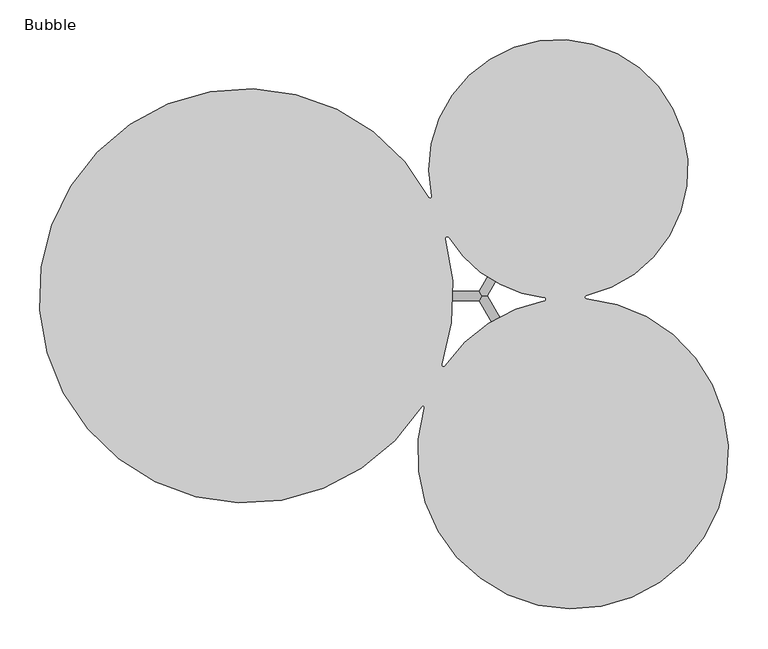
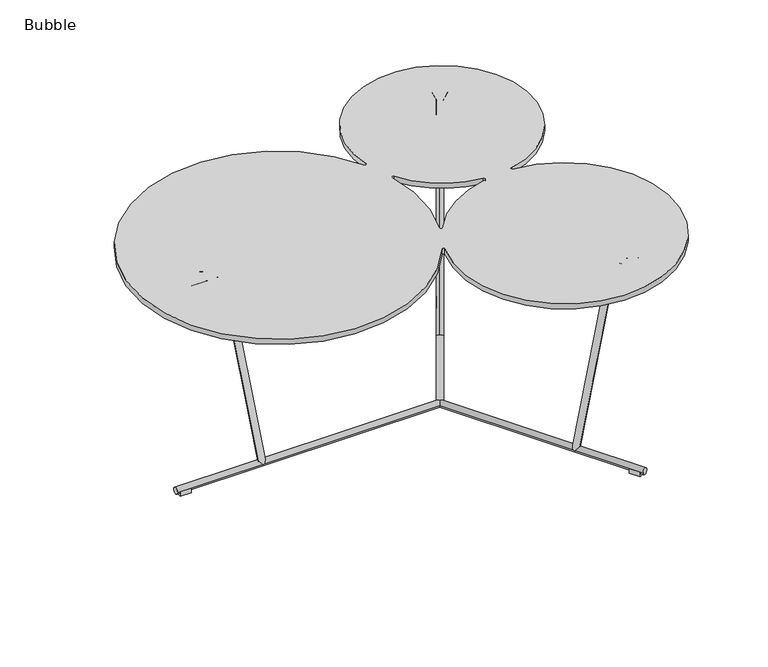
"""IFC4 building model written with IfcOpenShell, lengths in millimetres: furniture geometry, Furniture_Tables_Bla-Station_Bubble : Bubble."""

from ifc_helpers import new_model, si_unit, point, frame, frame_2d, origin, place, context, project, spatial, polyline, circle_curve, ellipse_curve, trimmed, segment, composite_curve, outline, extrude, source, transform, mapped, element, save
from ifc_brep_helpers import plane_surface, cylinder_surface, revolved_surface, spline_surface, advanced_brep


def bubble_cea61c99(model_context):
    return source(origin(), model_context, "Body", "SolidModel", [
        extrude(outline(composite_curve([segment(trimmed(circle_curve(frame_2d((58.3571971, 160.0387071)), 1.9905581), [point((56.6046667, 159.094801))], [point((60.3027176, 160.4597432))], True, "CARTESIAN"), True, "CONTINUOUS"), segment(trimmed(circle_curve(frame_2d((219.1894181, 194.8449028)), 162.5648264), [point((60.3027176, 160.4597432))], [point((253.7167021, 35.9890264))], False, "CARTESIAN"), True, "CONTINUOUS"), segment(trimmed(circle_curve(frame_2d((254.1414838, 34.0346569)), 2.0), [point((253.7167021, 35.9890264))], [point((253.9718119, 32.041867))], True, "CARTESIAN"), True, "CONTINUOUS"), segment(trimmed(circle_curve(frame_2d((237.4222067, -162.3326585)), 195.0777937), [point((253.9718119, 32.041867))], [point((50.9305666, -105.0944392))], False, "CARTESIAN"), True, "CONTINUOUS"), segment(trimmed(circle_curve(frame_2d((49.0185946, -104.5076146)), 2.0), [point((50.9305666, -105.0944392))], [point((47.3290736, -103.4373255))], True, "CARTESIAN"), True, "CONTINUOUS"), segment(trimmed(circle_curve(frame_2d((-172.3962757, 35.7557723)), 260.1037247), [point((47.3290736, -103.4373255))], [point((56.6046667, 159.094801))], False, "CARTESIAN"), True, "CONTINUOUS")], self_intersect=False), holes=[composite_curve([segment(trimmed(circle_curve(frame_2d((237.4222067, -162.3326585)), 195.0777937), [point((76.7149365, -51.7500247))], [point((201.1657888, 29.346286))], False, "CARTESIAN"), True, "CONTINUOUS"), segment(trimmed(circle_curve(frame_2d((200.7940764, 31.3114399)), 2.0), [point((201.1657888, 29.346286))], [point((201.0176398, 33.2989054))], True, "CARTESIAN"), True, "CONTINUOUS"), segment(trimmed(circle_curve(frame_2d((219.1894181, 194.8449028)), 162.5648264), [point((201.0176398, 33.2989054))], [point((81.3758829, 108.619893))], False, "CARTESIAN"), True, "CONTINUOUS"), segment(trimmed(circle_curve(frame_2d((79.6803927, 107.5590853)), 2.0), [point((81.3758829, 108.619893))], [point((77.7569048, 107.0111853))], True, "CARTESIAN"), True, "CONTINUOUS"), segment(trimmed(circle_curve(frame_2d((-172.3962757, 35.7557723)), 260.1037247), [point((77.7569048, 107.0111853))], [point((73.1790267, -49.9572283))], False, "CARTESIAN"), True, "CONTINUOUS"), segment(trimmed(circle_curve(frame_2d((75.0673141, -50.6162962)), 2.0), [point((73.1790267, -49.9572283))], [point((76.7149365, -51.7500247))], True, "CARTESIAN"), True, "CONTINUOUS")], self_intersect=False)]), frame((0.0, 0.0, 408.0), z_axis=(0.0, 0.0, 1.0), x_axis=(1.0, 0.0, 0.0)), (0.0, 0.0, 1.0), 10.0),
        extrude(outline(composite_curve([segment(trimmed(circle_curve(frame_2d((0.0, 2.0)), 2.0), [point((-2.0, 2.0))], [point((2.0, 2.0))], False, "CARTESIAN"), True, "CONTINUOUS"), segment(polyline([(2.0, 2.0), (2.0, -19.9999999)]), True, "CONTINUOUS"), segment(trimmed(circle_curve(frame_2d((0.0, -19.9999999)), 2.0), [point((2.0, -19.9999999))], [point((-2.0, -19.9999999))], False, "CARTESIAN"), True, "CONTINUOUS"), segment(polyline([(-2.0, -19.9999999), (-2.0, 2.0)]), True, "CONTINUOUS")], self_intersect=False)), frame((261.6233846, 293.7634556, 405.9997931), z_axis=(0.4999966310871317, 0.8660273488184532, 0.0), x_axis=(0.0, 0.0, -1.0)), (0.0, 0.0, 1.0), 28.0),
        advanced_brep(
        [(259.8913299, 294.7634489, 403.9997931), (259.8913299, 294.7634489, 407.9997931), (278.9439315, 283.763523, 407.9997931), (278.9439315, 283.763523, 403.9997931), (261.9158696, 276.2699378, 395.9997931), (261.9158696, 276.2699378, 407.9997931)],
        [
            (0, 1, circle_curve(frame((259.8913299, 294.7634489, 405.9997931), z_axis=(0.49999663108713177, 0.8660273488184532, 0.0), x_axis=(0.8660273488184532, -0.49999663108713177, 0.0)), 2.0)),
            (1, 2),
            (2, 3, circle_curve(frame((278.9439315, 283.763523, 405.9997931), z_axis=(0.49999663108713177, 0.8660273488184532, 0.0), x_axis=(0.8660273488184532, -0.49999663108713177, 0.0)), 2.0)),
            (3, 0),
            (4, 5, circle_curve(frame((261.9158696, 276.2699378, 401.9997931), z_axis=(-0.49999663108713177, -0.8660273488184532, 0.0), x_axis=(0.8660273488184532, -0.49999663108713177, 0.0)), 6.0)),
            (5, 4, circle_curve(frame((261.9158696, 276.2699378, 401.9997931), z_axis=(-0.49999663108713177, -0.8660273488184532, 0.0), x_axis=(0.8660273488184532, -0.49999663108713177, 0.0)), 6.0)),
            (3, 4),
            (4, 0),
            (1, 5),
            (5, 2),
        ],
        [
            plane_surface(frame((269.4176307, 289.263486, 405.9997931), z_axis=(0.49999663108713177, 0.8660273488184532, 0.0), x_axis=(0.8660273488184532, -0.49999663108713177, 0.0))),
            plane_surface(frame((261.9158696, 276.2699378, 401.9997931), z_axis=(-0.49999663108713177, -0.8660273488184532, 0.0), x_axis=(0.8660273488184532, -0.49999663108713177, 0.0))),
            plane_surface(frame((261.9158696, 276.2699378, 395.9997931), z_axis=(0.23524828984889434, 0.407465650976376, -0.8824001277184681), x_axis=(0.8660273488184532, -0.4999966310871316, 0.0))),
            plane_surface(frame((261.9158696, 276.2699378, 407.9997931), z_axis=(0.0, 0.0, 1.0), x_axis=(-0.8660273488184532, 0.4999966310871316, 0.0))),
            spline_surface(1, 2, [[(261.9158696, 276.2699378, 395.9997931), (267.1120336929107, 273.2699580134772, 395.9997931), (267.1120336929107, 273.2699580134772, 401.9997931), (267.1120336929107, 273.2699580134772, 407.9997931), (261.9158696, 276.2699378, 407.9997931)], [(278.9439315, 283.763523, 403.9997931), (280.6759861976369, 282.76352973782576, 403.9997931), (280.6759861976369, 282.76352973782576, 405.9997931), (280.6759861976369, 282.76352973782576, 407.9997931), (278.9439315, 283.763523, 407.9997931)]], [2, 2], [3, 2, 3], [0.0, 1.0], [0.0, 1.0, 2.0], weights=[[1.0, 0.7071067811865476, 1.0, 0.7071067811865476, 1.0], [1.0, 0.7071067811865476, 1.0, 0.7071067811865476, 1.0]]),
            spline_surface(1, 2, [[(261.9158696, 276.2699378, 407.9997931), (256.7197055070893, 279.26991758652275, 407.9997931), (256.7197055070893, 279.26991758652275, 401.9997931), (256.7197055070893, 279.26991758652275, 395.9997931), (261.9158696, 276.2699378, 395.9997931)], [(259.8913299, 294.7634489, 407.9997931), (258.1592752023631, 295.7634421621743, 407.9997931), (258.1592752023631, 295.7634421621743, 405.9997931), (258.1592752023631, 295.7634421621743, 403.9997931), (259.8913299, 294.7634489, 403.9997931)]], [2, 2], [3, 2, 3], [0.0, 1.0], [0.0, 1.0, 2.0], weights=[[1.0, 0.7071067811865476, 1.0, 0.7071067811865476, 1.0], [1.0, 0.7071067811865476, 1.0, 0.7071067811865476, 1.0]]),
        ],
        [
            (0, [[1, 2, 3, 4]]),
            (1, [[5, 6]]),
            (2, [[7, 8, -4]]),
            (3, [[9, 10, -2]]),
            (4, [[-7, -3, -10, -5]]),
            (5, [[-9, -1, -8, -6]]),
        ],
    ),
        advanced_brep(
        [(213.0220837, 191.5826557, 10.0418349), (218.9309, 201.8171176, 7.9581651), (252.4842859, 259.9338089, 388.5625455), (246.5754696, 249.699347, 390.6462153), (261.9158696, 276.2699378, 407.9997931), (261.9158696, 276.2699378, 395.9997931), (256.9158981, 267.6096553, 395.9997931), (256.9158981, 267.6096553, 407.9997931)],
        [
            (0, 1, circle_curve(frame((215.9764918, 196.6998867, 9.0), z_axis=(-0.08681899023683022, -0.15037625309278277, -0.9848093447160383), x_axis=(0.49240135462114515, 0.8528718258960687, -0.17363915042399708)), 6.0)),
            (1, 0, circle_curve(frame((215.9764918, 196.6998867, 9.0), z_axis=(-0.08681899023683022, -0.15037625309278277, -0.9848093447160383), x_axis=(0.49240135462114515, 0.8528718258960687, -0.17363915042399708)), 6.0)),
            (1, 2),
            (2, 3, circle_curve(frame((249.5298777, 254.8165779, 389.6043804), z_axis=(-0.08681899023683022, -0.15037625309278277, -0.9848093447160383), x_axis=(0.49240135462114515, 0.8528718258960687, -0.17363915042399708)), 6.0)),
            (3, 0),
            (3, 2, circle_curve(frame((249.5298777, 254.8165779, 389.6043804), z_axis=(-0.08681899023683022, -0.15037625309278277, -0.9848093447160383), x_axis=(0.49240135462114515, 0.8528718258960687, -0.17363915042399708)), 6.0)),
            (4, 5, circle_curve(frame((261.9158696, 276.2699378, 401.9997931), z_axis=(0.4999966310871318, 0.8660273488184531, 0.0), x_axis=(0.0, 0.0, -1.0)), 6.0)),
            (5, 4, circle_curve(frame((261.9158696, 276.2699378, 401.9997931), z_axis=(0.4999966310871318, 0.8660273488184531, 0.0), x_axis=(0.0, 0.0, -1.0)), 6.0)),
            (6, 5),
            (4, 7),
            (7, 6, circle_curve(frame((256.9158981, 267.6096553, 401.9997931), z_axis=(0.4999966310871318, 0.8660273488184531, 0.0), x_axis=(0.0, 0.0, -1.0)), 6.0)),
            (6, 7, circle_curve(frame((256.9158981, 267.6096553, 401.9997931), z_axis=(0.4999966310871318, 0.8660273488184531, 0.0), x_axis=(0.0, 0.0, -1.0)), 6.0)),
            (7, 3, circle_curve(frame((256.9158981, 267.6096553, 386.9997931), z_axis=(0.8660273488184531, -0.49999663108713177, 0.0), x_axis=(-0.49240135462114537, -0.8528718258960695, 0.17363915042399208)), 21.0)),
            (2, 6, circle_curve(frame((256.9158981, 267.6096553, 386.9997931), z_axis=(-0.8660273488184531, 0.49999663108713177, 0.0), x_axis=(-0.49240135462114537, -0.8528718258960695, 0.17363915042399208)), 9.0)),
        ],
        [
            plane_surface(frame((185.0138817, 214.5759974, 9.0), z_axis=(-0.08681899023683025, -0.15037625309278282, -0.9848093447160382), x_axis=(0.8660273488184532, -0.49999663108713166, 0.0))),
            cylinder_surface(frame((215.9764918, 196.6998867, 9.0), z_axis=(-0.08681899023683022, -0.15037625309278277, -0.9848093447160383), x_axis=(0.49240135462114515, 0.8528718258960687, -0.17363915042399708)), 6.0),
            plane_surface(frame((230.9532595, 294.1460485, 401.9997931), z_axis=(0.49999663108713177, 0.8660273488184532, 0.0), x_axis=(0.8660273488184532, -0.49999663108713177, 0.0))),
            cylinder_surface(frame((256.9158981, 267.6096553, 401.9997931), z_axis=(-0.4999966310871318, -0.8660273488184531, 0.0), x_axis=(0.0, 0.0, -1.0)), 6.0),
            revolved_surface(trimmed(ellipse_curve(frame((249.5298777, 254.8165779, 389.6043804), z_axis=(0.08681899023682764, 0.15037625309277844, 0.9848093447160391), x_axis=(0.49240135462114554, 0.8528718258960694, -0.17363915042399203)), 6.0, 6.0), [point((246.5754696, 249.699347, 390.6462153))], [point((252.4842859, 259.9338089, 388.5625455))], True, "CARTESIAN"), (225.9532879, 285.485766, 386.9997931), (0.8660273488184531, -0.49999663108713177, 0.0)),
            revolved_surface(trimmed(ellipse_curve(frame((249.5298777, 254.8165779, 389.6043804), z_axis=(0.08681899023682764, 0.15037625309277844, 0.9848093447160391), x_axis=(0.49240135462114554, 0.8528718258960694, -0.17363915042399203)), 6.0, 6.0), [point((252.4842859, 259.9338089, 388.5625455))], [point((246.5754696, 249.699347, 390.6462153))], True, "CARTESIAN"), (225.9532879, 285.485766, 386.9997931), (0.8660273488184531, -0.49999663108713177, 0.0)),
        ],
        [
            (0, [[1, 2]]),
            (1, [[3, 4, 5, -2]]),
            (1, [[-5, 6, -3, -1]]),
            (2, [[7, 8]]),
            (3, [[9, -7, 10, 11]]),
            (3, [[-10, -8, -9, 12]]),
            (4, [[-11, 13, -4, 14]]),
            (5, [[-12, -14, -6, -13]]),
        ],
    ),
        extrude(outline(composite_curve([segment(polyline([(2.0, 2.0), (2.0, -20.0)]), True, "CONTINUOUS"), segment(trimmed(circle_curve(frame_2d((0.0, -20.0)), 2.0), [point((2.0, -20.0))], [point((-2.0, -20.0))], False, "CARTESIAN"), True, "CONTINUOUS"), segment(polyline([(-2.0, -20.0), (-2.0, 2.0)]), True, "CONTINUOUS"), segment(trimmed(circle_curve(frame_2d((0.0, 2.0)), 2.0), [point((-2.0, 2.0))], [point((2.0, 2.0))], False, "CARTESIAN"), True, "CONTINUOUS")], self_intersect=False)), frame((322.656496, -291.962779, 405.9997931), z_axis=(-0.5002766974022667, 0.8658655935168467, 0.0), x_axis=(0.0, 0.0, 1.0)), (0.0, 0.0, 1.0), 28.0),
        advanced_brep(
        [(310.3804797, -266.717989, 403.9997931), (310.3804797, -266.717989, 407.9997931), (291.3314366, -277.7240763, 407.9997931), (291.3314366, -277.7240763, 403.9997931), (293.349995, -259.2299114, 395.9997931), (293.349995, -259.2299114, 407.9997931)],
        [
            (0, 1, circle_curve(frame((310.3804797, -266.717989, 405.9997931), z_axis=(0.5002766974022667, -0.8658655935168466, 0.0), x_axis=(-0.8658655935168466, -0.5002766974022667, 0.0)), 2.0)),
            (1, 2),
            (2, 3, circle_curve(frame((291.3314366, -277.7240763, 405.9997931), z_axis=(0.5002766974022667, -0.8658655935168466, 0.0), x_axis=(-0.8658655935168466, -0.5002766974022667, 0.0)), 2.0)),
            (3, 0),
            (4, 5, circle_curve(frame((293.349995, -259.2299114, 401.9997931), z_axis=(-0.5002766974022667, 0.8658655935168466, 0.0), x_axis=(-0.8658655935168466, -0.5002766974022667, 0.0)), 6.0)),
            (5, 4, circle_curve(frame((293.349995, -259.2299114, 401.9997931), z_axis=(-0.5002766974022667, 0.8658655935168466, 0.0), x_axis=(-0.8658655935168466, -0.5002766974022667, 0.0)), 6.0)),
            (3, 4),
            (4, 0),
            (1, 5),
            (5, 2),
        ],
        [
            plane_surface(frame((300.8559582, -272.2210327, 405.9997931), z_axis=(0.5002766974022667, -0.8658655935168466, 0.0), x_axis=(-0.8658655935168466, -0.5002766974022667, 0.0))),
            plane_surface(frame((293.349995, -259.2299114, 401.9997931), z_axis=(-0.5002766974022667, 0.8658655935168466, 0.0), x_axis=(-0.8658655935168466, -0.5002766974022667, 0.0))),
            plane_surface(frame((293.349995, -259.2299114, 395.9997931), z_axis=(0.23538006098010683, -0.40738954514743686, -0.8824001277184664), x_axis=(-0.8658655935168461, -0.5002766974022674, 0.0))),
            plane_surface(frame((293.349995, -259.2299114, 407.9997931), z_axis=(0.0, 0.0, 1.0000000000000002), x_axis=(0.8658655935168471, 0.5002766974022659, 0.0))),
            spline_surface(1, 2, [[(293.349995, -259.2299114, 395.9997931), (288.1548014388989, -262.2315715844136, 395.9997931), (288.1548014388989, -262.2315715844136, 401.9997931), (288.1548014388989, -262.2315715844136, 407.9997931), (293.349995, -259.2299114, 407.9997931)], [(291.3314366, -277.7240763, 403.9997931), (289.59970541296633, -278.7246296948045, 403.9997931), (289.59970541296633, -278.7246296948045, 405.9997931), (289.59970541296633, -278.7246296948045, 407.9997931), (291.3314366, -277.7240763, 407.9997931)]], [2, 2], [3, 2, 3], [0.0, 1.0], [0.0, 1.0, 2.0], weights=[[1.0, 0.7071067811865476, 1.0, 0.7071067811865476, 1.0], [1.0, 0.7071067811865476, 1.0, 0.7071067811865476, 1.0]]),
            spline_surface(1, 2, [[(293.349995, -259.2299114, 407.9997931), (298.54518856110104, -256.2282512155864, 407.9997931), (298.54518856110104, -256.2282512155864, 401.9997931), (298.54518856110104, -256.2282512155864, 395.9997931), (293.349995, -259.2299114, 395.9997931)], [(310.3804797, -266.717989, 407.9997931), (312.1122108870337, -265.7174356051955, 407.9997931), (312.1122108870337, -265.7174356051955, 405.9997931), (312.1122108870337, -265.7174356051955, 403.9997931), (310.3804797, -266.717989, 403.9997931)]], [2, 2], [3, 2, 3], [0.0, 1.0], [0.0, 1.0, 2.0], weights=[[1.0, 0.7071067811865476, 1.0, 0.7071067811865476, 1.0], [1.0, 0.7071067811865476, 1.0, 0.7071067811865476, 1.0]]),
        ],
        [
            (0, [[1, 2, 3, 4]]),
            (1, [[5, 6]]),
            (2, [[7, 8, -4]]),
            (3, [[9, 10, -2]]),
            (4, [[-7, -3, -10, -5]]),
            (5, [[-9, -1, -8, -6]]),
        ],
    ),
        advanced_brep(
        [(244.428822, -174.5584471, 10.0418349), (250.340948, -184.7909974, 7.9581651), (283.9131283, -242.8968337, 388.5625455), (278.0010023, -232.6642834, 390.6462153), (293.349995, -259.2299114, 407.9997931), (293.349995, -259.2299114, 395.9997931), (288.3472228, -250.5712465, 395.9997931), (288.3472228, -250.5712465, 407.9997931)],
        [
            (0, 1, circle_curve(frame((247.384885, -179.6747223, 9.0), z_axis=(-0.08686762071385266, 0.15034816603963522, -0.9848093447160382), x_axis=(0.4926771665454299, -0.8527125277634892, -0.17363915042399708)), 6.0)),
            (1, 0, circle_curve(frame((247.384885, -179.6747223, 9.0), z_axis=(-0.08686762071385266, 0.15034816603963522, -0.9848093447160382), x_axis=(0.4926771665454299, -0.8527125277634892, -0.17363915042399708)), 6.0)),
            (1, 2),
            (2, 3, circle_curve(frame((280.9570653, -237.7805586, 389.6043804), z_axis=(-0.08686762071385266, 0.15034816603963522, -0.9848093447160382), x_axis=(0.4926771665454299, -0.8527125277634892, -0.17363915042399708)), 6.0)),
            (3, 0),
            (3, 2, circle_curve(frame((280.9570653, -237.7805586, 389.6043804), z_axis=(-0.08686762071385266, 0.15034816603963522, -0.9848093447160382), x_axis=(0.4926771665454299, -0.8527125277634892, -0.17363915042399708)), 6.0)),
            (4, 5, circle_curve(frame((293.349995, -259.2299114, 401.9997931), z_axis=(0.5002766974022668, -0.8658655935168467, 0.0), x_axis=(0.0, 0.0, -1.0)), 6.0)),
            (5, 4, circle_curve(frame((293.349995, -259.2299114, 401.9997931), z_axis=(0.5002766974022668, -0.8658655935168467, 0.0), x_axis=(0.0, 0.0, -1.0)), 6.0)),
            (6, 5),
            (4, 7),
            (7, 6, circle_curve(frame((288.3472228, -250.5712465, 401.9997931), z_axis=(0.5002766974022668, -0.8658655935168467, 0.0), x_axis=(0.0, 0.0, -1.0)), 6.0)),
            (6, 7, circle_curve(frame((288.3472228, -250.5712465, 401.9997931), z_axis=(0.5002766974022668, -0.8658655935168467, 0.0), x_axis=(0.0, 0.0, -1.0)), 6.0)),
            (7, 3, circle_curve(frame((288.3472228, -250.5712465, 386.9997931), z_axis=(-0.8658655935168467, -0.5002766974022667, 0.0), x_axis=(-0.4926771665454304, 0.85271252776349, 0.17363915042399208)), 21.0)),
            (2, 6, circle_curve(frame((288.3472228, -250.5712465, 386.9997931), z_axis=(0.8658655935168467, 0.5002766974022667, 0.0), x_axis=(-0.4926771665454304, 0.85271252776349, 0.17363915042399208)), 9.0)),
        ],
        [
            plane_surface(frame((278.3417119, -161.7885985, 9.0), z_axis=(-0.08686762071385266, 0.15034816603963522, -0.9848093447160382), x_axis=(-0.8658655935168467, -0.5002766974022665, 0.0))),
            cylinder_surface(frame((247.384885, -179.6747223, 9.0), z_axis=(-0.08686762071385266, 0.15034816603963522, -0.9848093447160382), x_axis=(0.4926771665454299, -0.8527125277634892, -0.17363915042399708)), 6.0),
            plane_surface(frame((324.306822, -241.3437877, 401.9997931), z_axis=(0.5002766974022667, -0.8658655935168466, 0.0), x_axis=(-0.8658655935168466, -0.5002766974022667, 0.0))),
            cylinder_surface(frame((288.3472228, -250.5712465, 401.9997931), z_axis=(-0.5002766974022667, 0.8658655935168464, 0.0), x_axis=(0.0, 0.0, -1.0)), 6.0),
            revolved_surface(trimmed(ellipse_curve(frame((280.9570653, -237.7805586, 389.6043804), z_axis=(0.08686762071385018, -0.15034816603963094, 0.9848093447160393), x_axis=(0.4926771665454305, -0.85271252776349, -0.1736391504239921)), 6.0, 6.0), [point((278.0010023, -232.6642834, 390.6462153))], [point((283.9131283, -242.8968337, 388.5625455))], True, "CARTESIAN"), (319.3040498, -232.6851227, 386.9997931), (-0.8658655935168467, -0.5002766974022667, 0.0)),
            revolved_surface(trimmed(ellipse_curve(frame((280.9570653, -237.7805586, 389.6043804), z_axis=(0.08686762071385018, -0.15034816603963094, 0.9848093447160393), x_axis=(0.4926771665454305, -0.85271252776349, -0.1736391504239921)), 6.0, 6.0), [point((283.9131283, -242.8968337, 388.5625455))], [point((278.0010023, -232.6642834, 390.6462153))], True, "CARTESIAN"), (319.3040498, -232.6851227, 386.9997931), (-0.8658655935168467, -0.5002766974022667, 0.0)),
        ],
        [
            (0, [[1, 2]]),
            (1, [[3, 4, 5, -2]]),
            (1, [[-5, 6, -3, -1]]),
            (2, [[7, 8]]),
            (3, [[9, -7, 10, 11]]),
            (3, [[-10, -8, -9, 12]]),
            (4, [[-11, 13, -4, 14]]),
            (5, [[-12, -14, -6, -13]]),
        ],
    ),
        extrude(outline(composite_curve([segment(polyline([(24.7524623, 407.9997931), (46.7524623, 407.9997931)]), True, "CONTINUOUS"), segment(trimmed(circle_curve(frame_2d((46.7524623, 405.9997931)), 2.0), [point((46.7524623, 407.9997931))], [point((46.7524623, 403.9997931))], False, "CARTESIAN"), True, "CONTINUOUS"), segment(polyline([(46.7524623, 403.9997931), (24.7524623, 403.9997931)]), True, "CONTINUOUS"), segment(trimmed(circle_curve(frame_2d((24.7524623, 405.9997931)), 2.0), [point((24.7524623, 403.9997931))], [point((24.7524623, 407.9997931))], False, "CARTESIAN"), True, "CONTINUOUS")], self_intersect=False)), frame((-337.2792726, 0.0, 0.0), z_axis=(1.0, 0.0, 0.0), x_axis=(0.0, 1.0, 0.0)), (0.0, 0.0, 1.0), 28.0),
        advanced_brep(
        [(-309.2792726, 24.7524623, 403.9997931), (-309.2792726, 24.7524623, 407.9997931), (-309.2792726, 46.7524623, 407.9997931), (-309.2792726, 46.7524623, 403.9997931), (-294.2756492, 35.7524623, 395.9997931), (-294.2756492, 35.7524623, 407.9997931)],
        [
            (0, 1, circle_curve(frame((-309.2792726, 24.7524623, 405.9997931), z_axis=(-1.0, 0.0, 0.0), x_axis=(0.0, 1.0, 0.0)), 2.0)),
            (1, 2),
            (2, 3, circle_curve(frame((-309.2792726, 46.7524623, 405.9997931), z_axis=(-1.0, 0.0, 0.0), x_axis=(0.0, 1.0, 0.0)), 2.0)),
            (3, 0),
            (4, 5, circle_curve(frame((-294.2756492, 35.7524623, 401.9997931), z_axis=(1.0, 0.0, 0.0), x_axis=(0.0, 1.0, 0.0)), 6.0)),
            (5, 4, circle_curve(frame((-294.2756492, 35.7524623, 401.9997931), z_axis=(1.0, 0.0, 0.0), x_axis=(0.0, 1.0, 0.0)), 6.0)),
            (3, 4),
            (4, 0),
            (1, 5),
            (5, 2),
        ],
        [
            plane_surface(frame((-309.2792726, 35.7524623, 405.9997931), z_axis=(-1.0, 0.0, 0.0), x_axis=(0.0, 1.0, 0.0))),
            plane_surface(frame((-294.2756492, 35.7524623, 401.9997931), z_axis=(1.0, 0.0, 0.0), x_axis=(0.0, 1.0, 0.0))),
            plane_surface(frame((-294.2756492, 35.7524623, 395.9997931), z_axis=(-0.47049974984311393, 0.0, -0.8824001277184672), x_axis=(0.0, 1.0, 0.0))),
            plane_surface(frame((-294.2756492, 35.7524623, 407.9997931), z_axis=(0.0, 0.0, 1.0), x_axis=(0.0, -1.0, 0.0))),
            spline_surface(1, 2, [[(-294.2756492, 35.7524623, 395.9997931), (-294.2756492, 41.7524623, 395.9997931), (-294.2756492, 41.7524623, 401.9997931), (-294.2756492, 41.7524623, 407.9997931), (-294.2756492, 35.7524623, 407.9997931)], [(-309.2792726, 46.7524623, 403.9997931), (-309.2792726, 48.7524623, 403.9997931), (-309.2792726, 48.7524623, 405.9997931), (-309.2792726, 48.7524623, 407.9997931), (-309.2792726, 46.7524623, 407.9997931)]], [2, 2], [3, 2, 3], [0.0, 1.0], [0.0, 1.0, 2.0], weights=[[1.0, 0.7071067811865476, 1.0, 0.7071067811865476, 1.0], [1.0, 0.7071067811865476, 1.0, 0.7071067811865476, 1.0]]),
            spline_surface(1, 2, [[(-294.2756492, 35.7524623, 407.9997931), (-294.2756492, 29.752462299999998, 407.9997931), (-294.2756492, 29.752462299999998, 401.9997931), (-294.2756492, 29.752462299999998, 395.9997931), (-294.2756492, 35.7524623, 395.9997931)], [(-309.2792726, 24.7524623, 407.9997931), (-309.2792726, 22.7524623, 407.9997931), (-309.2792726, 22.7524623, 405.9997931), (-309.2792726, 22.7524623, 403.9997931), (-309.2792726, 24.7524623, 403.9997931)]], [2, 2], [3, 2, 3], [0.0, 1.0], [0.0, 1.0, 2.0], weights=[[1.0, 0.7071067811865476, 1.0, 0.7071067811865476, 1.0], [1.0, 0.7071067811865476, 1.0, 0.7071067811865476, 1.0]]),
        ],
        [
            (0, [[1, 2, 3, 4]]),
            (1, [[5, 6]]),
            (2, [[7, 8, -4]]),
            (3, [[9, 10, -2]]),
            (4, [[-7, -3, -10, -5]]),
            (5, [[-9, -1, -8, -6]]),
        ],
    ),
        advanced_brep(
        [(-196.4874186, 35.7524623, 10.0418349), (-208.3051308, 35.7524623, 7.9581651), (-275.4123547, 35.7524623, 388.5625455), (-263.5946426, 35.7524623, 390.6462153), (-294.2756492, 35.7524623, 407.9997931), (-294.2756492, 35.7524623, 395.9997931), (-284.2756388, 35.7524623, 395.9997931), (-284.2756388, 35.7524623, 407.9997931)],
        [
            (0, 1, circle_curve(frame((-202.3962747, 35.7524623, 9.0), z_axis=(0.17363915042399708, 0.0, -0.9848093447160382), x_axis=(-0.9848093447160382, 0.0, -0.17363915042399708)), 6.0)),
            (1, 0, circle_curve(frame((-202.3962747, 35.7524623, 9.0), z_axis=(0.17363915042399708, 0.0, -0.9848093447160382), x_axis=(-0.9848093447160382, 0.0, -0.17363915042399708)), 6.0)),
            (1, 2),
            (2, 3, circle_curve(frame((-269.5034987, 35.7524623, 389.6043804), z_axis=(0.17363915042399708, 0.0, -0.9848093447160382), x_axis=(-0.9848093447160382, 0.0, -0.17363915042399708)), 6.0)),
            (3, 0),
            (3, 2, circle_curve(frame((-269.5034987, 35.7524623, 389.6043804), z_axis=(0.17363915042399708, 0.0, -0.9848093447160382), x_axis=(-0.9848093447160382, 0.0, -0.17363915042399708)), 6.0)),
            (4, 5, circle_curve(frame((-294.2756492, 35.7524623, 401.9997931), z_axis=(-1.0, 0.0, 0.0), x_axis=(0.0, 0.0, -1.0)), 6.0)),
            (5, 4, circle_curve(frame((-294.2756492, 35.7524623, 401.9997931), z_axis=(-1.0, 0.0, 0.0), x_axis=(0.0, 0.0, -1.0)), 6.0)),
            (6, 5),
            (4, 7),
            (7, 6, circle_curve(frame((-284.2756388, 35.7524623, 401.9997931), z_axis=(-1.0, 0.0, 0.0), x_axis=(0.0, 0.0, -1.0)), 6.0)),
            (6, 7, circle_curve(frame((-284.2756388, 35.7524623, 401.9997931), z_axis=(-1.0, 0.0, 0.0), x_axis=(0.0, 0.0, -1.0)), 6.0)),
            (7, 3, circle_curve(frame((-284.2756388, 35.7524623, 386.9997931), z_axis=(0.0, 1.0, 0.0), x_axis=(0.9848093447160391, 0.0, 0.17363915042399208)), 21.0)),
            (2, 6, circle_curve(frame((-284.2756388, 35.7524623, 386.9997931), z_axis=(0.0, -1.0, 0.0), x_axis=(0.9848093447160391, 0.0, 0.17363915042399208)), 9.0)),
        ],
        [
            plane_surface(frame((-202.3962747, 0.0, 9.0), z_axis=(0.17363915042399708, 0.0, -0.9848093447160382), x_axis=(0.0, 1.0, 0.0))),
            cylinder_surface(frame((-202.3962747, 35.7524623, 9.0), z_axis=(0.17363915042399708, 0.0, -0.9848093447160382), x_axis=(-0.9848093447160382, 0.0, -0.17363915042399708)), 6.0),
            plane_surface(frame((-294.2756492, 0.0, 401.9997931), z_axis=(-1.0, 0.0, 0.0), x_axis=(0.0, 1.0, 0.0))),
            cylinder_surface(frame((-284.2756388, 35.7524623, 401.9997931), z_axis=(1.0, 0.0, 0.0), x_axis=(0.0, 0.0, -1.0)), 6.0),
            revolved_surface(trimmed(ellipse_curve(frame((-269.5034987, 35.7524623, 389.6043804), z_axis=(-0.1736391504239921, 0.0, 0.9848093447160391), x_axis=(-0.9848093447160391, 0.0, -0.1736391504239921)), 6.0, 6.0), [point((-263.5946426, 35.7524623, 390.6462153))], [point((-275.4123547, 35.7524623, 388.5625455))], True, "CARTESIAN"), (-284.2756388, 0.0, 386.9997931), (0.0, 1.0, 0.0)),
            revolved_surface(trimmed(ellipse_curve(frame((-269.5034987, 35.7524623, 389.6043804), z_axis=(-0.1736391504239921, 0.0, 0.9848093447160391), x_axis=(-0.9848093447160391, 0.0, -0.1736391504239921)), 6.0, 6.0), [point((-275.4123547, 35.7524623, 388.5625455))], [point((-263.5946426, 35.7524623, 390.6462153))], True, "CARTESIAN"), (-284.2756388, 0.0, 386.9997931), (0.0, 1.0, 0.0)),
        ],
        [
            (0, [[1, 2]]),
            (1, [[3, 4, 5, -2]]),
            (1, [[-5, 6, -3, -1]]),
            (2, [[7, 8]]),
            (3, [[9, -7, 10, 11]]),
            (3, [[-10, -8, -9, 12]]),
            (4, [[-11, 13, -4, 14]]),
            (5, [[-12, -14, -6, -13]]),
        ],
    ),
        extrude(outline(composite_curve([segment(trimmed(circle_curve(frame_2d((-9.0, 6.0)), 6.0), [point((-9.0, 0.0))], [point((-9.0, 12.0))], True, "CARTESIAN"), True, "CONTINUOUS"), segment(polyline([(-9.0, 12.0), (0.0, 12.0), (0.0, 0.0), (-9.0, 0.0)]), True, "CONTINUOUS")], self_intersect=False)), frame((265.7518894, 270.9128899, 0.0), z_axis=(0.499988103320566, 0.8660322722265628, 0.0), x_axis=(0.0, 0.0, -1.0)), (0.0, 0.0, 1.0), 20.0),
        extrude(outline(composite_curve([segment(trimmed(circle_curve(frame_2d((-9.0, 6.0)), 6.0), [point((-9.0, 0.0))], [point((-9.0, 12.0))], True, "CARTESIAN"), True, "CONTINUOUS"), segment(polyline([(-9.0, 12.0), (0.0, 12.0), (0.0, 0.0), (-9.0, 0.0)]), True, "CONTINUOUS")], self_intersect=False)), frame((292.859969, -270.3528937, 0.0), z_axis=(0.49999549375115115, -0.8660280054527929, 0.0), x_axis=(0.0, 0.0, -1.0)), (0.0, 0.0, 1.0), 19.7),
        extrude(outline(composite_curve([segment(polyline([(41.7557741, 9.0), (41.7557741, 0.0), (29.7557741, 0.0), (29.7557741, 9.0)]), True, "CONTINUOUS"), segment(trimmed(circle_curve(frame_2d((35.7557741, 9.0)), 6.0), [point((29.7557741, 9.0))], [point((41.7557741, 9.0))], True, "CARTESIAN"), True, "CONTINUOUS")], self_intersect=False)), frame((-354.9442032, 0.0, 0.0), z_axis=(1.0, 0.0, 0.0), x_axis=(0.0, 1.0, 0.0)), (0.0, 0.0, 1.0), 20.0),
        advanced_brep(
        [(278.2519493, 292.5633953, 9.0), (267.8596444, 298.5633953, 9.0), (129.9840001, 35.7557741, 9.0), (123.0557968, 35.7557741, 3.0), (119.5916952, 41.7557741, 9.0), (123.0557968, 35.7557741, 15.0), (-359.9442032, 29.7557741, 9.0), (-359.9442032, 41.7557741, 9.0), (119.5916952, 29.7557741, 9.0), (305.3596444, -292.0037523, 9.0), (315.7519493, -286.0037523, 9.0)],
        [
            (0, 1, circle_curve(frame((273.0557968, 295.5633953, 9.0), z_axis=(0.4999999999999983, 0.8660254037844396, 0.0), x_axis=(-0.8660254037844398, 0.4999999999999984, 0.0)), 6.0)),
            (1, 0, circle_curve(frame((273.0557968, 295.5633953, 9.0), z_axis=(0.4999999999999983, 0.8660254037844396, 0.0), x_axis=(-0.8660254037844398, 0.4999999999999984, 0.0)), 6.0)),
            (0, 2),
            (2, 3, ellipse_curve(frame((123.0557968, 35.7557741, 9.0), z_axis=(0.0, 1.0, 0.0), x_axis=(-1.0, 0.0, 0.0)), 6.9282032, 6.0)),
            (3, 4, ellipse_curve(frame((123.0557968, 35.7557741, 9.0), z_axis=(0.8660254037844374, 0.5000000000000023, 0.0), x_axis=(0.5000000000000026, -0.8660254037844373, 0.0)), 6.9282032, 6.0)),
            (4, 1),
            (4, 5, ellipse_curve(frame((123.0557968, 35.7557741, 9.0), z_axis=(0.8660254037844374, 0.5000000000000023, 0.0), x_axis=(0.5000000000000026, -0.8660254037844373, 0.0)), 6.9282032, 6.0)),
            (5, 2, ellipse_curve(frame((123.0557968, 35.7557741, 9.0), z_axis=(0.0, 1.0, 0.0), x_axis=(-1.0, 0.0, 0.0)), 6.9282032, 6.0)),
            (6, 7, circle_curve(frame((-359.9442032, 35.7557741, 9.0), z_axis=(-1.0, 0.0, 0.0), x_axis=(0.0, 1.0, 0.0)), 6.0)),
            (7, 6, circle_curve(frame((-359.9442032, 35.7557741, 9.0), z_axis=(-1.0, 0.0, 0.0), x_axis=(0.0, 1.0, 0.0)), 6.0)),
            (7, 4),
            (3, 8, ellipse_curve(frame((123.0557968, 35.7557741, 9.0), z_axis=(-0.8660254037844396, 0.4999999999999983, 0.0), x_axis=(-0.49999999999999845, -0.8660254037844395, 0.0)), 6.9282032, 6.0)),
            (8, 6),
            (8, 5, ellipse_curve(frame((123.0557968, 35.7557741, 9.0), z_axis=(-0.8660254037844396, 0.4999999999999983, 0.0), x_axis=(-0.49999999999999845, -0.8660254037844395, 0.0)), 6.9282032, 6.0)),
            (9, 10, circle_curve(frame((310.5557968, -289.0037523, 9.0), z_axis=(0.5000000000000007, -0.8660254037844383, 0.0), x_axis=(0.8660254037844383, 0.5000000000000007, 0.0)), 6.0)),
            (10, 9, circle_curve(frame((310.5557968, -289.0037523, 9.0), z_axis=(0.5000000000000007, -0.8660254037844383, 0.0), x_axis=(0.8660254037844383, 0.5000000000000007, 0.0)), 6.0)),
            (9, 8),
            (2, 10),
        ],
        [
            plane_surface(frame((273.0557968, 295.5633953, 0.0), z_axis=(0.4999999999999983, 0.8660254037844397, 0.0), x_axis=(0.0, 0.0, 1.0))),
            cylinder_surface(frame((123.0557968, 35.7557741, 9.0), z_axis=(-0.4999999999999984, -0.8660254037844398, 0.0), x_axis=(-0.8660254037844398, 0.4999999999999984, 0.0)), 6.0),
            plane_surface(frame((-359.9442032, 35.7557741, 0.0), z_axis=(-1.0, 0.0, 0.0), x_axis=(0.0, 0.0, 1.0))),
            cylinder_surface(frame((-359.9442032, 35.7557741, 9.0), z_axis=(-1.0, 0.0, 0.0), x_axis=(0.0, 1.0, 0.0)), 6.0),
            plane_surface(frame((310.5557968, -289.0037523, 0.0), z_axis=(0.5000000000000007, -0.8660254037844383, 0.0), x_axis=(0.0, 0.0, 1.0))),
            cylinder_surface(frame((123.0557968, 35.7557741, 9.0), z_axis=(-0.5000000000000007, 0.8660254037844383, 0.0), x_axis=(0.8660254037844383, 0.5000000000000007, 0.0)), 6.0),
        ],
        [
            (0, [[1, 2]]),
            (1, [[3, 4, 5, 6, -1]]),
            (1, [[-6, 7, 8, -3, -2]]),
            (2, [[9, 10]]),
            (3, [[11, -5, 12, 13, -10]]),
            (3, [[-13, 14, -7, -11, -9]]),
            (4, [[15, 16]]),
            (5, [[17, -12, -4, 18, -15]]),
            (5, [[-18, -8, -14, -17, -16]]),
        ],
    ),
    ])


if __name__ == "__main__":
    model = new_model("IFC4")
    model_context = context("Model", 3, world=origin())
    ifc_project = project(units=[si_unit("LENGTHUNIT", "METRE", prefix="MILLI")], contexts=[model_context])
    site = spatial("IfcSite", under=ifc_project)
    building = spatial("IfcBuilding", under=site)
    placement = place(None, origin())
    bubble_shape = bubble_cea61c99(model_context)
    element("IfcFurniture", 1, ObjectType="Furniture_Tables_Bla-Station_Bubble : Bubble", at=placement, inside=building, context=model_context, shape_type="MappedRepresentation", body=[
        mapped(bubble_shape, transform((0.0, 0.0, 0.0), x_axis=(1.0, 0.0, 0.0), y_axis=(0.0, 1.0, 0.0), z_axis=(0.0, 0.0, 1.0))),
    ])
    save(model, "model.ifc")
